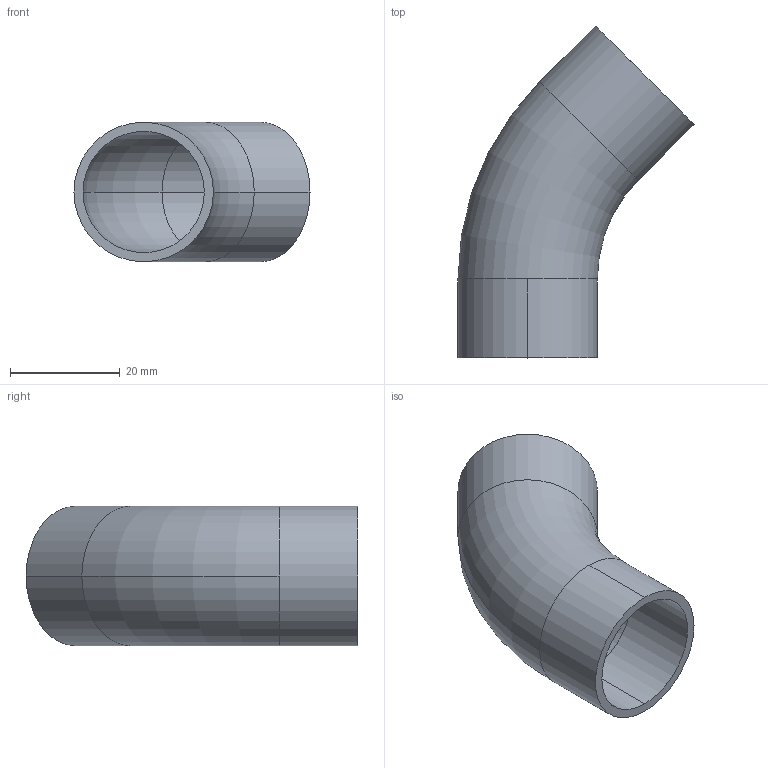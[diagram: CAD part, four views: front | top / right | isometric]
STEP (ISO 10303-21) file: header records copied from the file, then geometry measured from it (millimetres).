
FILE_DESCRIPTION (( 'STEP AP203' ), '1' );
FILE_NAME ('E2KS1.0.STEP', '2018-04-30T15:51:26', ( 'vneprd' ), ( 'Microsoft' ), 'SwSTEP 2.0', 'SolidWorks 2014', '' );
FILE_SCHEMA (( 'CONFIG_CONTROL_DESIGN' ));
Length unit declared in the file: inch
Products named in the file (1): E2KS1.0
Bounding box: 43.01 x 60.46 x 25.4 mm (x, y, z)
Volume: 7227.8 mm3; surface area: 9002 mm2
Topology: 1 solids, 1 shells, 14 faces, 32 edges, 20 vertices
Faces by surface type: cylinder 8, torus 4, plane 2
Entity records: 491 total; most frequent: DIRECTION 86, CARTESIAN_POINT 67, ORIENTED_EDGE 64, AXIS2_PLACEMENT_3D 39, EDGE_CURVE 32, CIRCLE 24, VERTEX_POINT 20, EDGE_LOOP 16
